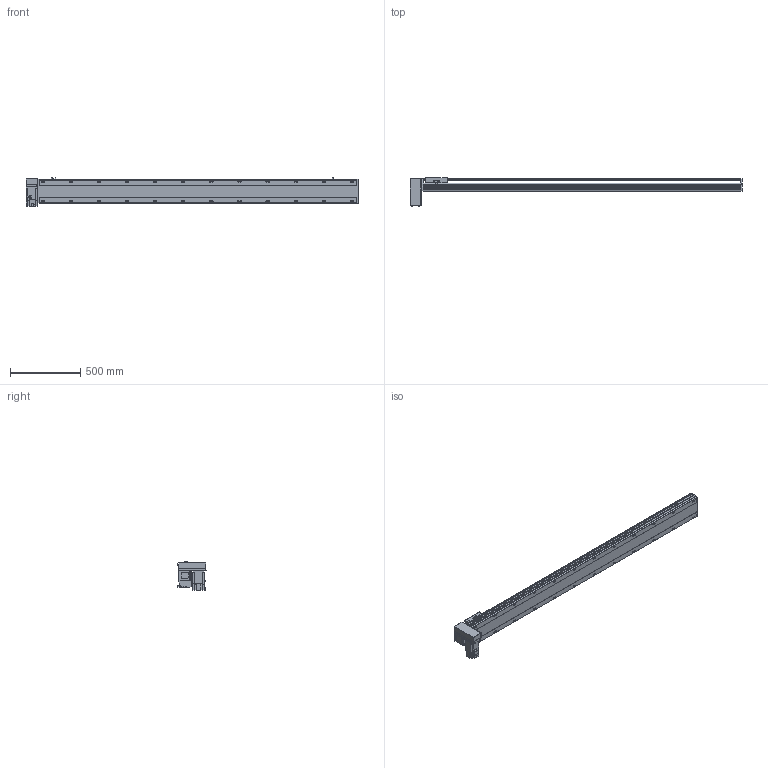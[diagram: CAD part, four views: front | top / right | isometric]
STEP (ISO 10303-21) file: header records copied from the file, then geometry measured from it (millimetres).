
FILE_DESCRIPTION(/* description */ ('STEP AP214'),/* implementation_level */ '2;1');
FILE_NAME(/* name */ 'PBS170-P40-S2000-RD-T75-C1-N(0)',/* time_stamp */ '2022-06-08T07:36:59+02:00',/* author */ ('License CC BY-ND 4.0'),/* organization */ ('CADENAS'),/* preprocessor_version */ 'ST-DEVELOPER v18.102',/* originating_system */ 'PARTsolutions',/* authorisation */ ' ');
FILE_SCHEMA (('AUTOMOTIVE_DESIGN {1 0 10303 214 3 1 1}'));
Length unit declared in the file: millimetre
Products named in the file (7): PBS170-P40-S2000-RD-T75-C1-N(0); PBS170_sensor; PBS170_plant; PBS170_sliser; T75-p1; PBS170T-RD_motors; PBS170-S2000()_body
Assembly tree (8 placements, depth 2):
  PBS170-P40-S2000-RD-T75-C1-N(0)
    PBS170_sensor  x3
    PBS170_plant
    PBS170_sliser
    T75-p1
    PBS170T-RD_motors
    PBS170-S2000()_body
Bounding box: 2363 x 201 x 205.3 mm (x, y, z)
Volume: 18117964.6 mm3; surface area: 2298960.7 mm2
Topology: 8 solids, 8 shells, 1146 faces, 3035 edges, 1978 vertices
Faces by surface type: plane 711, cylinder 371, cone 54, sphere 8, torus 2
Full cylindrical faces by diameter (mm): 3.242 x4, 4 x2, 4.4 x4, 4.5 x6, 4.917 x4, 6 x9, 6.647 x32, 7 x2, 7.5 x4, 8 x8, 8.5 x24, 10 x4, 10.5 x24, 11 x2, 30 x2, 40 x1, 70 x1
Entity records: 32950 total; most frequent: CARTESIAN_POINT 6161, DIRECTION 5580, ORIENTED_EDGE 5268, EDGE_CURVE 2634, AXIS2_PLACEMENT_3D 1957, VERTEX_POINT 1826, LINE 1666, VECTOR 1666
